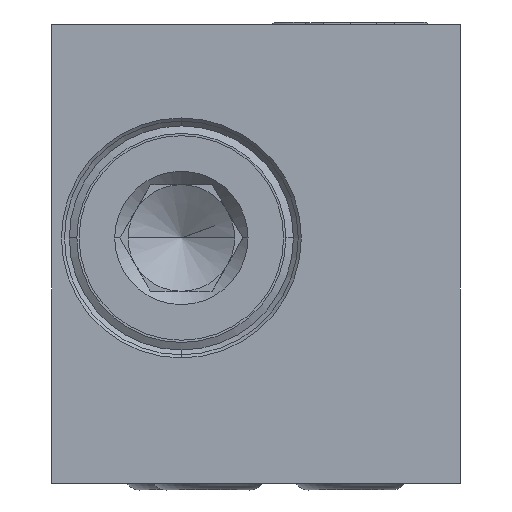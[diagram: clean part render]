
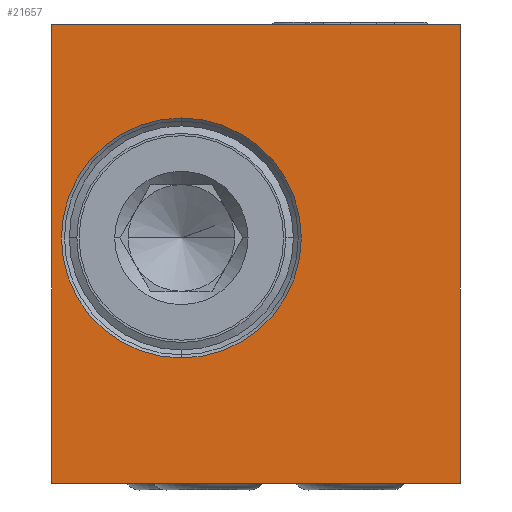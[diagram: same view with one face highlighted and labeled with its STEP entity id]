
A CAD part, left-side view. The second image highlights one B-rep face of the part: STEP entity #21657.
In plain terms, the highlighted planar face has unit normal (-1, 0, 0).
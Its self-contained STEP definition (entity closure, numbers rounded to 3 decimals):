
#3973=DIRECTION('',(0.,0.,1.));
#3974=VECTOR('',#3973,25.8);
#3975=CARTESIAN_POINT('',(-38.,11.5,-12.9));
#3976=LINE('',#3975,#3974);
#3977=DIRECTION('',(0.,-1.,0.));
#3978=VECTOR('',#3977,23.);
#3979=CARTESIAN_POINT('',(-38.,11.5,12.9));
#3980=LINE('',#3979,#3978);
#3981=DIRECTION('',(0.,0.,-1.));
#3982=VECTOR('',#3981,25.8);
#3983=CARTESIAN_POINT('',(-38.,-11.5,12.9));
#3984=LINE('',#3983,#3982);
#3985=DIRECTION('',(0.,1.,0.));
#3986=VECTOR('',#3985,23.);
#3987=CARTESIAN_POINT('',(-38.,-11.5,-12.9));
#3988=LINE('',#3987,#3986);
#3989=CARTESIAN_POINT('',(-38.,4.2,0.9));
#3990=DIRECTION('',(-1.,0.,0.));
#3991=DIRECTION('',(0.,0.,-1.));
#3992=AXIS2_PLACEMENT_3D('',#3989,#3990,#3991);
#3994=CARTESIAN_POINT('',(-38.,4.2,0.9));
#3995=DIRECTION('',(-1.,0.,0.));
#3996=DIRECTION('',(0.,0.,1.));
#3997=AXIS2_PLACEMENT_3D('',#3994,#3995,#3996);
#14827=CARTESIAN_POINT('',(-38.,11.5,12.9));
#14828=VERTEX_POINT('',#14827);
#14829=CARTESIAN_POINT('',(-38.,11.5,-12.9));
#14830=VERTEX_POINT('',#14829);
#14831=CARTESIAN_POINT('',(-38.,-11.5,12.9));
#14832=VERTEX_POINT('',#14831);
#14853=CARTESIAN_POINT('',(-38.,-11.5,-12.9));
#14854=VERTEX_POINT('',#14853);
#14899=CARTESIAN_POINT('',(-38.,4.2,-5.85));
#14900=CARTESIAN_POINT('',(-38.,4.2,7.65));
#14901=VERTEX_POINT('',#14899);
#14902=VERTEX_POINT('',#14900);
#21638=CARTESIAN_POINT('',(-38.,0.,0.));
#21639=DIRECTION('',(-1.,0.,0.));
#21640=DIRECTION('',(0.,-1.,0.));
#21641=AXIS2_PLACEMENT_3D('',#21638,#21639,#21640);
#21642=PLANE('',#21641);
#21643=ORIENTED_EDGE('',*,*,#21631,.T.);
#21644=ORIENTED_EDGE('',*,*,#19425,.T.);
#21646=ORIENTED_EDGE('',*,*,#21645,.T.);
#21648=ORIENTED_EDGE('',*,*,#21647,.T.);
#21649=EDGE_LOOP('',(#21643,#21644,#21646,#21648));
#21650=FACE_OUTER_BOUND('',#21649,.F.);
#21652=ORIENTED_EDGE('',*,*,#21651,.T.);
#21654=ORIENTED_EDGE('',*,*,#21653,.T.);
#21655=EDGE_LOOP('',(#21652,#21654));
#21656=FACE_BOUND('',#21655,.F.);
#21657=ADVANCED_FACE('',(#21650,#21656),#21642,.T.);
#3993=CIRCLE('',#3992,6.75);
#3998=CIRCLE('',#3997,6.75);
#19425=EDGE_CURVE('',#14828,#14832,#3980,.T.);
#21631=EDGE_CURVE('',#14830,#14828,#3976,.T.);
#21645=EDGE_CURVE('',#14832,#14854,#3984,.T.);
#21647=EDGE_CURVE('',#14854,#14830,#3988,.T.);
#21651=EDGE_CURVE('',#14901,#14902,#3993,.T.);
#21653=EDGE_CURVE('',#14902,#14901,#3998,.T.);
